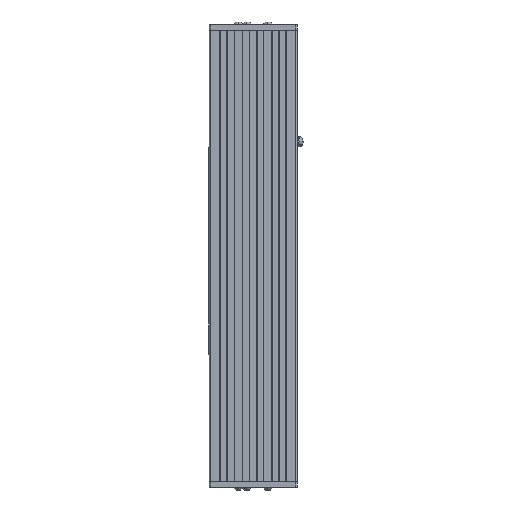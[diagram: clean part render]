
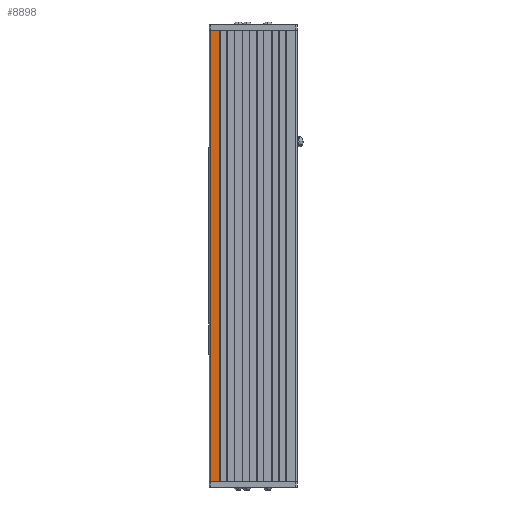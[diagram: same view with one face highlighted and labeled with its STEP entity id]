
A CAD part, front view. The second image highlights one B-rep face of the part: STEP entity #8898.
In plain terms, the highlighted planar face has unit normal (0, -1, 0).
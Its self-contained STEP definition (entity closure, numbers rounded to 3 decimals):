
#3711 = EDGE_LOOP ( 'NONE', ( #15615, #15616, #15617, #15618 ) ) ;
#4529 = EDGE_CURVE ( 'NONE', #35389, #35390, #40288, .T. ) ;
#7249 = PLANE ( 'NONE',  #33804 ) ;
#7250 = CARTESIAN_POINT ( 'NONE',  ( -66.426, -36.746, 692. ) ) ;
#7251 = DIRECTION ( 'NONE',  ( 0., 1., 0. ) ) ;
#7252 = DIRECTION ( 'NONE',  ( 0., 0., 1. ) ) ;
#8898 = ADVANCED_FACE ( 'NONE', ( #34106 ), #7249, .F. ) ;
#14768 = VERTEX_POINT ( 'NONE', #38068 ) ;
#14786 = VERTEX_POINT ( 'NONE', #38086 ) ;
#15615 = ORIENTED_EDGE ( 'NONE', *, *, #4529, .F. ) ;
#15616 = ORIENTED_EDGE ( 'NONE', *, *, #42683, .T. ) ;
#15617 = ORIENTED_EDGE ( 'NONE', *, *, #42635, .T. ) ;
#15618 = ORIENTED_EDGE ( 'NONE', *, *, #42684, .F. ) ;
#23739 = CARTESIAN_POINT ( 'NONE',  ( -64.426, -36.746, 692. ) ) ;
#23741 = CARTESIAN_POINT ( 'NONE',  ( -49.926, -36.746, 692. ) ) ;
#28953 = LINE ( 'NONE', #29506, #28954 ) ;
#28954 = VECTOR ( 'NONE', #29507, 1000. ) ;
#29034 = LINE ( 'NONE', #29617, #29035 ) ;
#29035 = VECTOR ( 'NONE', #29618, 1000. ) ;
#29036 = LINE ( 'NONE', #29619, #29037 ) ;
#29037 = VECTOR ( 'NONE', #29620, 1000. ) ;
#29506 = CARTESIAN_POINT ( 'NONE',  ( -66.426, -36.746, 0. ) ) ;
#29507 = DIRECTION ( 'NONE',  ( 1., 0., 0. ) ) ;
#29617 = CARTESIAN_POINT ( 'NONE',  ( -64.426, -36.746, 692. ) ) ;
#29618 = DIRECTION ( 'NONE',  ( 0., 0., -1. ) ) ;
#29619 = CARTESIAN_POINT ( 'NONE',  ( -49.926, -36.746, 692. ) ) ;
#29620 = DIRECTION ( 'NONE',  ( 0., 0., -1. ) ) ;
#33804 = AXIS2_PLACEMENT_3D ( 'NONE', #7250, #7251, #7252 ) ;
#34106 = FACE_OUTER_BOUND ( 'NONE', #3711, .T. ) ;
#35389 = VERTEX_POINT ( 'NONE', #23739 ) ;
#35390 = VERTEX_POINT ( 'NONE', #23741 ) ;
#38068 = CARTESIAN_POINT ( 'NONE',  ( -64.426, -36.746, 0. ) ) ;
#38086 = CARTESIAN_POINT ( 'NONE',  ( -49.926, -36.746, 0. ) ) ;
#40288 = LINE ( 'NONE', #43029, #40290 ) ;
#40290 = VECTOR ( 'NONE', #43030, 1000. ) ;
#42635 = EDGE_CURVE ( 'NONE', #14768, #14786, #28953, .T. ) ;
#42683 = EDGE_CURVE ( 'NONE', #35389, #14768, #29034, .T. ) ;
#42684 = EDGE_CURVE ( 'NONE', #35390, #14786, #29036, .T. ) ;
#43029 = CARTESIAN_POINT ( 'NONE',  ( -66.426, -36.746, 692. ) ) ;
#43030 = DIRECTION ( 'NONE',  ( 1., 0., 0. ) ) ;
